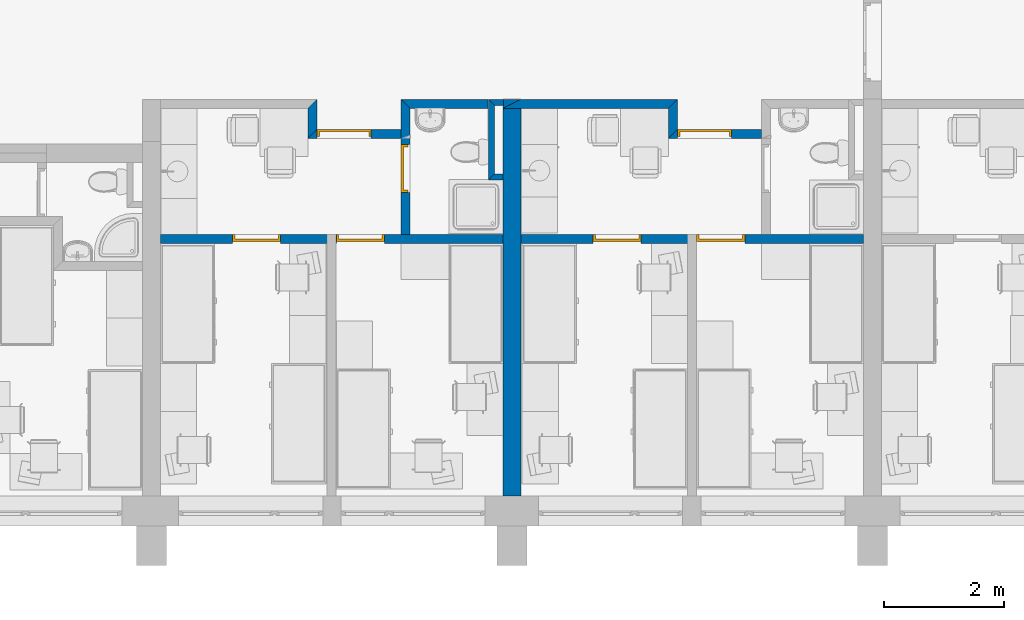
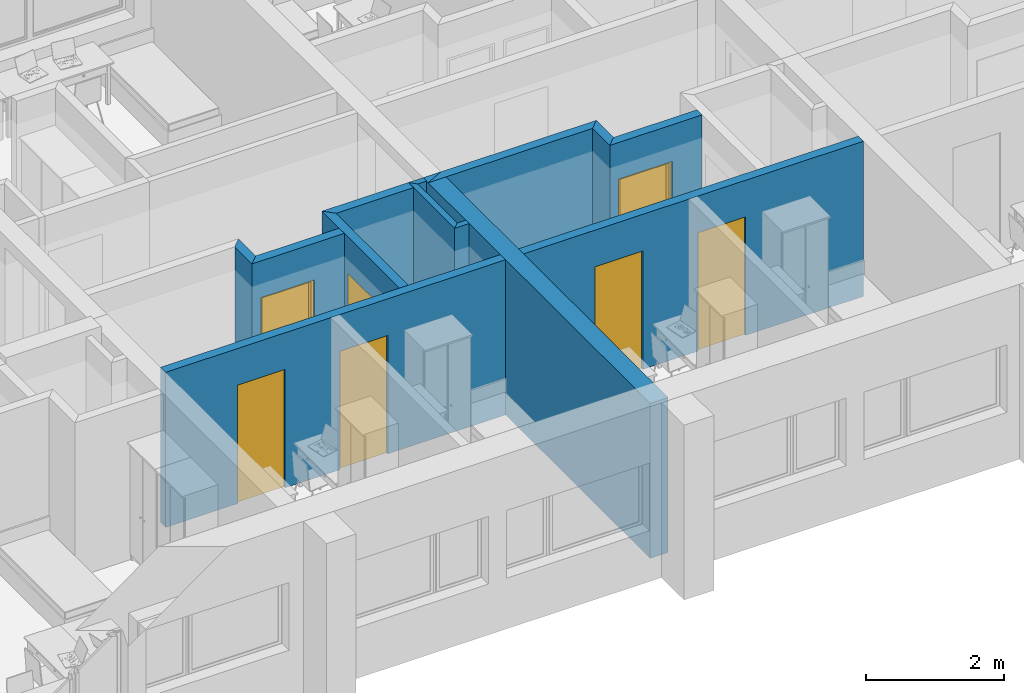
# One storey, part 3 of 172: 13 walls, 7 doors, 7 openings.
"""IFC2X3 building model written with IfcOpenShell, lengths in millimetres."""

from ifc_helpers import new_model, entity, si_unit, converted_unit, money_unit, direction, frame, origin_with_axes, place, context, subcontext, project, spatial, polyline, outline, extrude, faceted_brep, source, transform, mapped, material, material_list, layer, layer_set, layer_usage, type_object, element, fill, save


model = new_model("IFC2X3")

# Units and contexts
model_context = context("Model", 3, precision=1e-05, world=origin_with_axes(), true_north=direction((0.0, 1.0)))
body_context = subcontext(model_context, "Body", "Model", "MODEL_VIEW")
ifc_project = project(units=[si_unit("LENGTHUNIT", "METRE", prefix="MILLI"), si_unit("AREAUNIT", "SQUARE_METRE"), si_unit("VOLUMEUNIT", "CUBIC_METRE"), converted_unit("PLANEANGLEUNIT", "DEGREE", entity("IfcPlaneAngleMeasure", 0.0174532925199), si_unit("PLANEANGLEUNIT", "RADIAN"), dimensions=[0, 0, 0, 0, 0, 0, 0]), si_unit("SOLIDANGLEUNIT", "STERADIAN"), money_unit("USD"), converted_unit("TIMEUNIT", "Year", entity("IfcTimeMeasure", 31556926.0), si_unit("TIMEUNIT", "SECOND"), dimensions=[0, 0, 0, 0, 0, 0, 0]), si_unit("MASSUNIT", "GRAM"), si_unit("THERMODYNAMICTEMPERATUREUNIT", "DEGREE_CELSIUS"), si_unit("LUMINOUSINTENSITYUNIT", "LUMEN")], contexts=[model_context])

# Site, building, storey
site_placement = place(None, origin_with_axes())
site = spatial("IfcSite", under=ifc_project, at=site_placement, Name="Site", CompositionType="ELEMENT")
building_placement = place(site_placement, origin_with_axes())
building = spatial("IfcBuilding", under=site, at=building_placement, Name="Building", CompositionType="ELEMENT")
storey_placement = place(building_placement, frame((0.0, 0.0, 3200.0), z_axis=(0.0, 0.0, 1.0), x_axis=(1.0, 0.0, 0.0)))
storey = spatial("IfcBuildingStorey", under=building, at=storey_placement, Name="3KORRUS", CompositionType="ELEMENT", Elevation=3200.0)

# Wall
ifc_material_1 = material(Name="UmbKipsplaat")
ifc_layer_1 = layer(ifc_material_1, 13.0, ventilated="UNKNOWN")
ifc_layer_2 = layer(ifc_material_1, 13.0, ventilated="UNKNOWN")
ifc_material_2 = material(Name="SOOJUSTUS MINERAALVILL")
ifc_layer_3 = layer(ifc_material_2, 98.0, ventilated="UNKNOWN")
ifc_layer_4 = layer(ifc_material_1, 13.0, ventilated="UNKNOWN")
ifc_layer_5 = layer(ifc_material_1, 13.0, ventilated="UNKNOWN")
ifc_layer_set_1 = layer_set([ifc_layer_1, ifc_layer_2, ifc_layer_3, ifc_layer_4, ifc_layer_5], Name="kipssein150")
ifc_layer_usage_1 = layer_usage(ifc_layer_set_1, "AXIS2", "POSITIVE", -150.0)
wall_type_1 = type_object("IfcWallType", Name="kipssein150 150", PredefinedType="NOTDEFINED")
wall_1_placement = place(storey_placement, frame((-43984.201689, -13039.3705726, 0.0), z_axis=(0.0, 0.0, 1.0), x_axis=(1.0, 0.0, 0.0)))
element("IfcWallStandardCase", 1, at=wall_1_placement, inside=storey, type_object=wall_type_1, material=ifc_layer_usage_1, Name="SS1", ObjectType="SS1", context=body_context, shape_type="SweptSolid", body=[
    extrude(outline(polyline([(150.0, -150.0), (1445.21489498, -150.0), (1445.21489498, 0.0), (0.0, 0.0), (150.0, -150.0)])), origin_with_axes(), (0.0, 0.0, 1.0), 2750.0),
])

# Wall, openings, doors
ifc_layer_usage_2 = layer_usage(ifc_layer_set_1, "AXIS2", "POSITIVE", -150.0)
wall_2_placement = place(storey_placement, frame((-41990.2967033, -15439.2398994, 0.0), z_axis=(0.0, 0.0, 1.0), x_axis=(-1.0, 0.0, 0.0)))
wall_2 = element("IfcWallStandardCase", 2, at=wall_2_placement, inside=storey, type_object=wall_type_1, material=ifc_layer_usage_2, Name="SS1", ObjectType="SS1", context=body_context, shape_type="SweptSolid", body=[
    extrude(outline(polyline([(300.0, -150.0), (6000.0, -150.0), (6000.0, 0.0), (300.0, 0.0), (300.0, -150.0)])), origin_with_axes(), (0.0, 0.0, 1.0), 2750.0),
])
opening_1_placement = place(wall_2_placement, frame((4400.0, 0.0, 0.0), z_axis=(0.0, 0.0, 1.0), x_axis=(1.0, 0.0, 0.0)))
opening_1 = element("IfcOpeningElement", 3, at=opening_1_placement, cuts=wall_2, Name="SU3-5", context=body_context, shape_type="SweptSolid", body=[
    extrude(outline(polyline([(-400.0, 0.0), (400.0, 0.0), (400.0, 2100.0), (-400.0, 2100.0), (-400.0, 0.0)])), frame((0.0, 150.0, 0.0), z_axis=(0.0, 1.0, 0.0), x_axis=(-1.0, 0.0, 0.0)), (0.0, 0.0, -1.0), 450.0),
])
opening_2_placement = place(wall_2_placement, frame((2675.0, 0.0, 0.0), z_axis=(0.0, 0.0, 1.0), x_axis=(1.0, 0.0, 0.0)))
opening_2 = element("IfcOpeningElement", 4, at=opening_2_placement, cuts=wall_2, Name="SU3-4", context=body_context, shape_type="SweptSolid", body=[
    extrude(outline(polyline([(-400.0, 0.0), (400.0, 0.0), (400.0, 2100.0), (-400.0, 2100.0), (-400.0, 0.0)])), frame((0.0, 150.0, 0.0), z_axis=(0.0, -1.0, 0.0), x_axis=(1.0, 0.0, 0.0)), (0.0, 0.0, 1.0), 450.0),
])
ifc_material_3 = material(Name="Background")
ifc_material_list = material_list([ifc_material_3])
door_style_1 = type_object("IfcDoorStyle", Name="Door 19", ConstructionType="NOTDEFINED", OperationType="SINGLE_SWING_LEFT", ParameterTakesPrecedence=False, Sizeable=False)
shared_shape_1 = source(origin_with_axes(), body_context, "Body", "Brep", [
    faceted_brep([(360.0, -75.0, 0.0), (360.0, -150.0, 0.0), (360.0, -150.0, 2060.0), (360.0, -75.0, 2060.0), (372.0, -75.0, 0.0), (372.0, -35.0, 0.0), (400.0, -35.0, 0.0), (400.0, -150.0, 0.0), (400.0, -150.0, 2060.0), (372.0, -75.0, 2060.0), (400.0, -35.0, 2060.0), (372.0, -35.0, 2060.0)], [[[0, 1, 2, 3]], [[4, 5, 6, 7, 1, 0]], [[2, 1, 7, 8]], [[9, 3, 2, 8, 10, 11]], [[9, 4, 0, 3]], [[11, 5, 4, 9]], [[11, 10, 6, 5]], [[7, 6, 10, 8]]]),
    faceted_brep([(-372.0, -75.0, 2060.0), (-372.0, -35.0, 2060.0), (-400.0, -35.0, 2060.0), (-400.0, -150.0, 2060.0), (-360.0, -150.0, 2060.0), (-360.0, -75.0, 2060.0), (-372.0, -75.0, 0.0), (-372.0, -35.0, 0.0), (-400.0, -35.0, 0.0), (-400.0, -150.0, 0.0), (-360.0, -150.0, 0.0), (-360.0, -75.0, 0.0)], [[[0, 1, 2, 3, 4, 5]], [[0, 6, 7, 1]], [[7, 8, 2, 1]], [[3, 2, 8, 9]], [[4, 3, 9, 10]], [[5, 4, 10, 11]], [[5, 11, 6, 0]], [[6, 11, 10, 9, 8, 7]]]),
    faceted_brep([(372.0, -35.0, 2072.0), (-372.0, -35.0, 2072.0), (-372.0, -35.0, 2060.0), (-400.0, -35.0, 2060.0), (-400.0, -35.0, 2100.0), (400.0, -35.0, 2100.0), (400.0, -35.0, 2060.0), (372.0, -35.0, 2060.0), (372.0, -75.0, 2072.0), (-372.0, -75.0, 2072.0), (-372.0, -75.0, 2060.0), (-360.0, -75.0, 2060.0), (-360.0, -150.0, 2060.0), (-400.0, -150.0, 2060.0), (-400.0, -150.0, 2100.0), (400.0, -150.0, 2100.0), (400.0, -150.0, 2060.0), (372.0, -75.0, 2060.0), (360.0, -150.0, 2060.0), (360.0, -75.0, 2060.0)], [[[0, 1, 2, 3, 4, 5, 6, 7]], [[0, 8, 9, 1]], [[1, 9, 10, 2]], [[10, 11, 12, 13, 3, 2]], [[14, 4, 3, 13]], [[15, 5, 4, 14]], [[16, 6, 5, 15]], [[17, 7, 6, 16, 18, 19]], [[7, 17, 8, 0]], [[10, 9, 8, 17, 19, 11]], [[19, 18, 12, 11]], [[13, 12, 18, 16, 15, 14]]]),
    faceted_brep([(-372.0, -35.0, 0.0), (372.0, -35.0, 0.0), (372.0, -75.0, 0.0), (-372.0, -75.0, 0.0), (-372.0, -35.0, 2072.0), (372.0, -35.0, 2072.0), (372.0, -75.0, 2072.0), (-372.0, -75.0, 2072.0)], [[[0, 1, 2, 3]], [[0, 4, 5, 1]], [[1, 5, 6, 2]], [[3, 2, 6, 7]], [[4, 0, 3, 7]], [[5, 4, 7, 6]]]),
])
door_1_placement = place(opening_1_placement, frame((-400.0, 0.0, 0.0), z_axis=(0.0, 0.0, 1.0), x_axis=(1.0, 0.0, 0.0)))
door_1 = element("IfcDoor", 5, at=door_1_placement, inside=storey, type_object=door_style_1, material=ifc_material_list, Name="SU3-5", ObjectType="Toa uks", OverallHeight=2100.0, OverallWidth=800.0, context=body_context, shape_type="MappedRepresentation", body=[
    mapped(shared_shape_1, transform((400.0, 0.0, 0.0))),
])
fill(opening_1, door_1)
door_style_2 = type_object("IfcDoorStyle", Name="Door 19", ConstructionType="NOTDEFINED", OperationType="SINGLE_SWING_RIGHT", ParameterTakesPrecedence=False, Sizeable=False)
shared_shape_2 = source(origin_with_axes(), body_context, "Body", "Brep", [
    faceted_brep([(-360.0, -75.0, 0.0), (-360.0, -75.0, 2060.0), (-360.0, -150.0, 2060.0), (-360.0, -150.0, 0.0), (-372.0, -75.0, 2060.0), (-372.0, -75.0, 0.0), (-372.0, -35.0, 2060.0), (-400.0, -35.0, 2060.0), (-400.0, -150.0, 2060.0), (-400.0, -150.0, 0.0), (-400.0, -35.0, 0.0), (-372.0, -35.0, 0.0)], [[[0, 1, 2, 3]], [[4, 1, 0, 5]], [[4, 6, 7, 8, 2, 1]], [[2, 8, 9, 3]], [[5, 0, 3, 9, 10, 11]], [[6, 4, 5, 11]], [[6, 11, 10, 7]], [[9, 8, 7, 10]]]),
    faceted_brep([(372.0, -75.0, 2060.0), (360.0, -75.0, 2060.0), (360.0, -150.0, 2060.0), (400.0, -150.0, 2060.0), (400.0, -35.0, 2060.0), (372.0, -35.0, 2060.0), (372.0, -75.0, 0.0), (360.0, -75.0, 0.0), (360.0, -150.0, 0.0), (400.0, -150.0, 0.0), (400.0, -35.0, 0.0), (372.0, -35.0, 0.0)], [[[0, 1, 2, 3, 4, 5]], [[1, 0, 6, 7]], [[1, 7, 8, 2]], [[2, 8, 9, 3]], [[3, 9, 10, 4]], [[11, 5, 4, 10]], [[0, 5, 11, 6]], [[6, 11, 10, 9, 8, 7]]]),
    faceted_brep([(-372.0, -35.0, 2072.0), (-372.0, -35.0, 2060.0), (-400.0, -35.0, 2060.0), (-400.0, -35.0, 2100.0), (400.0, -35.0, 2100.0), (400.0, -35.0, 2060.0), (372.0, -35.0, 2060.0), (372.0, -35.0, 2072.0), (-372.0, -75.0, 2072.0), (-372.0, -75.0, 2060.0), (-360.0, -75.0, 2060.0), (-360.0, -150.0, 2060.0), (-400.0, -150.0, 2060.0), (-400.0, -150.0, 2100.0), (400.0, -150.0, 2100.0), (400.0, -150.0, 2060.0), (372.0, -75.0, 2060.0), (360.0, -150.0, 2060.0), (360.0, -75.0, 2060.0), (372.0, -75.0, 2072.0)], [[[0, 1, 2, 3, 4, 5, 6, 7]], [[1, 0, 8, 9]], [[9, 10, 11, 12, 2, 1]], [[12, 13, 3, 2]], [[13, 14, 4, 3]], [[14, 15, 5, 4]], [[16, 6, 5, 15, 17, 18]], [[7, 6, 16, 19]], [[0, 7, 19, 8]], [[16, 18, 10, 9, 8, 19]], [[10, 18, 17, 11]], [[15, 14, 13, 12, 11, 17]]]),
    faceted_brep([(372.0, -35.0, 0.0), (372.0, -75.0, 0.0), (-372.0, -75.0, 0.0), (-372.0, -35.0, 0.0), (372.0, -35.0, 2072.0), (372.0, -75.0, 2072.0), (-372.0, -75.0, 2072.0), (-372.0, -35.0, 2072.0)], [[[0, 1, 2, 3]], [[4, 5, 1, 0]], [[1, 5, 6, 2]], [[3, 2, 6, 7]], [[0, 3, 7, 4]], [[7, 6, 5, 4]]]),
])
door_2_placement = place(opening_2_placement, frame((-400.0, 0.0, 0.0), z_axis=(0.0, 0.0, 1.0), x_axis=(1.0, 0.0, 0.0)))
door_2 = element("IfcDoor", 6, at=door_2_placement, inside=storey, type_object=door_style_2, material=ifc_material_list, Name="SU3-4", ObjectType="Toa uks", OverallHeight=2100.0, OverallWidth=800.0, context=body_context, shape_type="MappedRepresentation", body=[
    mapped(shared_shape_2, transform((400.0, 0.0, 0.0))),
])
fill(opening_2, door_2)

# Wall, opening, door
ifc_layer_usage_3 = layer_usage(ifc_layer_set_1, "AXIS2", "POSITIVE", -150.0)
wall_3_placement = place(storey_placement, frame((-43984.201689, -15289.2398994, 0.0), z_axis=(0.0, 0.0, 1.0), x_axis=(0.0, 1.0, 0.0)))
wall_3 = element("IfcWallStandardCase", 7, at=wall_3_placement, inside=storey, type_object=wall_type_1, material=ifc_layer_usage_3, Name="SS1", ObjectType="SS1", context=body_context, shape_type="SweptSolid", body=[
    extrude(outline(polyline([(0.0, -150.0), (2099.8693268, -150.0), (2249.8693268, 0.0), (0.0, 0.0), (0.0, -150.0)])), origin_with_axes(), (0.0, 0.0, 1.0), 2750.0),
])
opening_3_placement = place(wall_3_placement, frame((1099.78749111, 0.0, 0.0), z_axis=(0.0, 0.0, 1.0), x_axis=(1.0, 0.0, 0.0)))
opening_3 = element("IfcOpeningElement", 8, at=opening_3_placement, cuts=wall_3, Name="SU3-2", context=body_context, shape_type="SweptSolid", body=[
    extrude(outline(polyline([(-400.0, -2100.0), (400.0, -2100.0), (400.0, 0.0), (-400.0, 0.0), (-400.0, -2100.0)])), frame((0.0, -150.0, 0.0), z_axis=(0.0, 1.0, 0.0), x_axis=(1.0, 0.0, 0.0)), (0.0, 0.0, 1.0), 450.0),
])
door_style_3 = type_object("IfcDoorStyle", Name="Door 19", ConstructionType="NOTDEFINED", OperationType="SINGLE_SWING_RIGHT", ParameterTakesPrecedence=False, Sizeable=False)
shared_shape_3 = source(origin_with_axes(), body_context, "Body", "Brep", [
    faceted_brep([(-360.0, -40.0, 0.0), (-360.0, -40.0, 2060.0), (-360.0, -115.0, 2060.0), (-360.0, -115.0, 0.0), (-372.0, -40.0, 2060.0), (-372.0, -40.0, 0.0), (-372.0, 0.0, 2060.0), (-400.0, 0.0, 2060.0), (-400.0, -115.0, 2060.0), (-400.0, -115.0, 0.0), (-400.0, 0.0, 0.0), (-372.0, 0.0, 0.0)], [[[0, 1, 2, 3]], [[4, 1, 0, 5]], [[4, 6, 7, 8, 2, 1]], [[2, 8, 9, 3]], [[5, 0, 3, 9, 10, 11]], [[6, 4, 5, 11]], [[6, 11, 10, 7]], [[9, 8, 7, 10]]]),
    faceted_brep([(372.0, -40.0, 2060.0), (360.0, -40.0, 2060.0), (360.0, -115.0, 2060.0), (400.0, -115.0, 2060.0), (400.0, 0.0, 2060.0), (372.0, 0.0, 2060.0), (372.0, -40.0, 0.0), (360.0, -40.0, 0.0), (360.0, -115.0, 0.0), (400.0, -115.0, 0.0), (400.0, 0.0, 0.0), (372.0, 0.0, 0.0)], [[[0, 1, 2, 3, 4, 5]], [[1, 0, 6, 7]], [[1, 7, 8, 2]], [[2, 8, 9, 3]], [[3, 9, 10, 4]], [[11, 5, 4, 10]], [[0, 5, 11, 6]], [[6, 11, 10, 9, 8, 7]]]),
    faceted_brep([(-372.0, 0.0, 2072.0), (-372.0, 0.0, 2060.0), (-400.0, 0.0, 2060.0), (-400.0, 0.0, 2100.0), (400.0, 0.0, 2100.0), (400.0, 0.0, 2060.0), (372.0, 0.0, 2060.0), (372.0, 0.0, 2072.0), (-372.0, -40.0, 2072.0), (-372.0, -40.0, 2060.0), (-360.0, -40.0, 2060.0), (-360.0, -115.0, 2060.0), (-400.0, -115.0, 2060.0), (-400.0, -115.0, 2100.0), (400.0, -115.0, 2100.0), (400.0, -115.0, 2060.0), (372.0, -40.0, 2060.0), (360.0, -115.0, 2060.0), (360.0, -40.0, 2060.0), (372.0, -40.0, 2072.0)], [[[0, 1, 2, 3, 4, 5, 6, 7]], [[1, 0, 8, 9]], [[9, 10, 11, 12, 2, 1]], [[12, 13, 3, 2]], [[13, 14, 4, 3]], [[14, 15, 5, 4]], [[16, 6, 5, 15, 17, 18]], [[7, 6, 16, 19]], [[0, 7, 19, 8]], [[16, 18, 10, 9, 8, 19]], [[10, 18, 17, 11]], [[15, 14, 13, 12, 11, 17]]]),
    faceted_brep([(372.0, 0.0, 0.0), (372.0, -40.0, 0.0), (-372.0, -40.0, 0.0), (-372.0, 0.0, 0.0), (372.0, 0.0, 2072.0), (372.0, -40.0, 2072.0), (-372.0, -40.0, 2072.0), (-372.0, 0.0, 2072.0)], [[[0, 1, 2, 3]], [[4, 5, 1, 0]], [[1, 5, 6, 2]], [[3, 2, 6, 7]], [[0, 3, 7, 4]], [[7, 6, 5, 4]]]),
])
door_3_placement = place(opening_3_placement, frame((-400.0, 0.0, 0.0), z_axis=(0.0, 0.0, 1.0), x_axis=(1.0, 0.0, 0.0)))
door_3 = element("IfcDoor", 9, at=door_3_placement, inside=storey, type_object=door_style_3, material=ifc_material_list, Name="SU3-2", ObjectType="WC-uks", OverallHeight=2100.0, OverallWidth=800.0, context=body_context, shape_type="MappedRepresentation", body=[
    mapped(shared_shape_3, transform((400.0, 0.0, 0.0))),
])
fill(opening_3, door_3)

ifc_layer_usage_4 = layer_usage(ifc_layer_set_1, "AXIS2", "POSITIVE", 0.0)
wall_4_placement = place(storey_placement, frame((-43984.201689, -13539.4524083, 0.0), z_axis=(0.0, 0.0, 1.0), x_axis=(-1.0, 0.0, 0.0)))
wall_4 = element("IfcWallStandardCase", 10, at=wall_4_placement, inside=storey, type_object=wall_type_1, material=ifc_layer_usage_4, Name="SS1", ObjectType="SS1", context=body_context, shape_type="SweptSolid", body=[
    extrude(outline(polyline([(0.0, 0.0), (1399.6606794, 0.0), (1549.6606794, 150.0), (0.0, 150.0), (0.0, 0.0)])), origin_with_axes(), (0.0, 0.0, 1.0), 2750.0),
])
opening_4_placement = place(wall_4_placement, frame((949.660679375, 0.0, 0.0), z_axis=(0.0, 0.0, 1.0), x_axis=(1.0, 0.0, 0.0)))
opening_4 = element("IfcOpeningElement", 11, at=opening_4_placement, cuts=wall_4, Name="SU2-6", context=body_context, shape_type="SweptSolid", body=[
    extrude(outline(polyline([(-450.0, -2100.0), (450.0, -2100.0), (450.0, 0.0), (-450.0, 0.0), (-450.0, -2100.0)])), frame((0.0, 150.0, 0.0), z_axis=(0.0, 1.0, 0.0), x_axis=(1.0, 0.0, 0.0)), (0.0, 0.0, -1.0), 450.0),
])
door_style_4 = type_object("IfcDoorStyle", Name="Door 19", ConstructionType="NOTDEFINED", OperationType="SINGLE_SWING_LEFT", ParameterTakesPrecedence=False, Sizeable=False)
shared_shape_4 = source(origin_with_axes(), body_context, "Body", "Brep", [
    faceted_brep([(410.0, -40.0, 0.0), (410.0, -115.0, 0.0), (410.0, -115.0, 2060.0), (410.0, -40.0, 2060.0), (422.0, -40.0, 0.0), (422.0, 0.0, 0.0), (450.0, 0.0, 0.0), (450.0, -115.0, 0.0), (450.0, -115.0, 2060.0), (422.0, -40.0, 2060.0), (450.0, 0.0, 2060.0), (422.0, 0.0, 2060.0)], [[[0, 1, 2, 3]], [[4, 5, 6, 7, 1, 0]], [[2, 1, 7, 8]], [[9, 3, 2, 8, 10, 11]], [[9, 4, 0, 3]], [[11, 5, 4, 9]], [[11, 10, 6, 5]], [[7, 6, 10, 8]]]),
    faceted_brep([(-422.0, -40.0, 2060.0), (-422.0, 0.0, 2060.0), (-450.0, 0.0, 2060.0), (-450.0, -115.0, 2060.0), (-410.0, -115.0, 2060.0), (-410.0, -40.0, 2060.0), (-422.0, -40.0, 0.0), (-422.0, 0.0, 0.0), (-450.0, 0.0, 0.0), (-450.0, -115.0, 0.0), (-410.0, -115.0, 0.0), (-410.0, -40.0, 0.0)], [[[0, 1, 2, 3, 4, 5]], [[0, 6, 7, 1]], [[7, 8, 2, 1]], [[3, 2, 8, 9]], [[4, 3, 9, 10]], [[5, 4, 10, 11]], [[5, 11, 6, 0]], [[6, 11, 10, 9, 8, 7]]]),
    faceted_brep([(422.0, 0.0, 2072.0), (-422.0, 0.0, 2072.0), (-422.0, 0.0, 2060.0), (-450.0, 0.0, 2060.0), (-450.0, 0.0, 2100.0), (450.0, 0.0, 2100.0), (450.0, 0.0, 2060.0), (422.0, 0.0, 2060.0), (422.0, -40.0, 2072.0), (-422.0, -40.0, 2072.0), (-422.0, -40.0, 2060.0), (-410.0, -40.0, 2060.0), (-410.0, -115.0, 2060.0), (-450.0, -115.0, 2060.0), (-450.0, -115.0, 2100.0), (450.0, -115.0, 2100.0), (450.0, -115.0, 2060.0), (422.0, -40.0, 2060.0), (410.0, -115.0, 2060.0), (410.0, -40.0, 2060.0)], [[[0, 1, 2, 3, 4, 5, 6, 7]], [[0, 8, 9, 1]], [[1, 9, 10, 2]], [[10, 11, 12, 13, 3, 2]], [[14, 4, 3, 13]], [[15, 5, 4, 14]], [[16, 6, 5, 15]], [[17, 7, 6, 16, 18, 19]], [[7, 17, 8, 0]], [[10, 9, 8, 17, 19, 11]], [[19, 18, 12, 11]], [[13, 12, 18, 16, 15, 14]]]),
    faceted_brep([(-422.0, 0.0, 0.0), (422.0, 0.0, 0.0), (422.0, -40.0, 0.0), (-422.0, -40.0, 0.0), (-422.0, 0.0, 2072.0), (422.0, 0.0, 2072.0), (422.0, -40.0, 2072.0), (-422.0, -40.0, 2072.0)], [[[0, 1, 2, 3]], [[0, 4, 5, 1]], [[1, 5, 6, 2]], [[3, 2, 6, 7]], [[4, 0, 3, 7]], [[5, 4, 7, 6]]]),
])
door_4_placement = place(opening_4_placement, frame((450.0, 0.0, 0.0), z_axis=(0.0, 0.0, 1.0), x_axis=(-1.0, 0.0, 0.0)))
door_4 = element("IfcDoor", 12, at=door_4_placement, inside=storey, type_object=door_style_4, material=ifc_material_list, Name="SU2-6", ObjectType="Korteri välisuks", OverallHeight=2100.0, OverallWidth=900.0, context=body_context, shape_type="MappedRepresentation", body=[
    mapped(shared_shape_4, transform((450.0, 0.0, 0.0))),
])
fill(opening_4, door_4)

# Walls
ifc_layer_usage_5 = layer_usage(ifc_layer_set_1, "AXIS2", "POSITIVE", 0.0)
wall_5_placement = place(storey_placement, frame((-45533.8623684, -13039.2398994, 0.0), z_axis=(0.0, 0.0, 1.0), x_axis=(0.0, -1.0, 0.0)))
element("IfcWallStandardCase", 13, at=wall_5_placement, inside=storey, type_object=wall_type_1, material=ifc_layer_usage_5, Name="SS1", ObjectType="SS1", context=body_context, shape_type="SweptSolid", body=[
    extrude(outline(polyline([(150.0, 0.0), (650.2125089, 0.0), (500.2125089, 150.0), (0.0, 150.0), (150.0, 0.0)])), origin_with_axes(), (0.0, 0.0, 1.0), 2750.0),
])
ifc_layer_usage_6 = layer_usage(ifc_layer_set_1, "AXIS2", "POSITIVE", 0.0)
wall_6_placement = place(storey_placement, frame((-39533.8623684, -13039.2398994, 0.0), z_axis=(0.0, 0.0, 1.0), x_axis=(0.0, -1.0, 0.0)))
element("IfcWallStandardCase", 14, at=wall_6_placement, inside=storey, type_object=wall_type_1, material=ifc_layer_usage_6, Name="SS1", ObjectType="SS1", context=body_context, shape_type="SweptSolid", body=[
    extrude(outline(polyline([(150.0, 0.0), (650.2125089, 0.0), (500.2125089, 150.0), (0.0, 150.0), (150.0, 0.0)])), origin_with_axes(), (0.0, 0.0, 1.0), 2750.0),
])

# Wall, opening, door
ifc_layer_usage_7 = layer_usage(ifc_layer_set_1, "AXIS2", "POSITIVE", 0.0)
wall_7_placement = place(storey_placement, frame((-37984.201689, -13539.4524083, 0.0), z_axis=(0.0, 0.0, 1.0), x_axis=(-1.0, 0.0, 0.0)))
wall_7 = element("IfcWallStandardCase", 15, at=wall_7_placement, inside=storey, type_object=wall_type_1, material=ifc_layer_usage_7, Name="SS1", ObjectType="SS1", context=body_context, shape_type="SweptSolid", body=[
    extrude(outline(polyline([(0.0, 0.0), (1399.6606794, 0.0), (1549.6606794, 150.0), (0.0, 150.0), (0.0, 0.0)])), origin_with_axes(), (0.0, 0.0, 1.0), 2750.0),
])
opening_5_placement = place(wall_7_placement, frame((949.660679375, 0.0, 0.0), z_axis=(0.0, 0.0, 1.0), x_axis=(1.0, 0.0, 0.0)))
opening_5 = element("IfcOpeningElement", 16, at=opening_5_placement, cuts=wall_7, Name="SU2-6", context=body_context, shape_type="SweptSolid", body=[
    extrude(outline(polyline([(-450.0, -2100.0), (450.0, -2100.0), (450.0, 0.0), (-450.0, 0.0), (-450.0, -2100.0)])), frame((0.0, 150.0, 0.0), z_axis=(0.0, 1.0, 0.0), x_axis=(1.0, 0.0, 0.0)), (0.0, 0.0, -1.0), 450.0),
])
door_5_placement = place(opening_5_placement, frame((450.0, 0.0, 0.0), z_axis=(0.0, 0.0, 1.0), x_axis=(-1.0, 0.0, 0.0)))
door_5 = element("IfcDoor", 17, at=door_5_placement, inside=storey, type_object=door_style_4, material=ifc_material_list, Name="SU2-6", ObjectType="Korteri välisuks", OverallHeight=2100.0, OverallWidth=900.0, context=body_context, shape_type="MappedRepresentation", body=[
    mapped(shared_shape_4, transform((450.0, 0.0, 0.0))),
])
fill(opening_5, door_5)

# Wall
ifc_layer_usage_8 = layer_usage(ifc_layer_set_1, "AXIS2", "POSITIVE", 0.0)
wall_8_placement = place(storey_placement, frame((-39533.8623684, -13039.2398994, 0.0), z_axis=(0.0, 0.0, 1.0), x_axis=(-1.0, 0.0, 0.0)))
element("IfcWallStandardCase", 18, at=wall_8_placement, inside=storey, type_object=wall_type_1, material=ifc_layer_usage_8, Name="SS1", ObjectType="SS1", context=body_context, shape_type="SweptSolid", body=[
    extrude(outline(polyline([(-150.0, 0.0), (2456.4343349, 0.0), (2756.4343349, 150.0), (0.0, 150.0), (-150.0, 0.0)])), origin_with_axes(), (0.0, 0.0, 1.0), 2750.0),
])

# Wall, openings, doors
ifc_layer_usage_9 = layer_usage(ifc_layer_set_1, "AXIS2", "POSITIVE", -150.0)
wall_9_placement = place(storey_placement, frame((-35990.2967033, -15439.2398994, 0.0), z_axis=(0.0, 0.0, 1.0), x_axis=(-1.0, 0.0, 0.0)))
wall_9 = element("IfcWallStandardCase", 19, at=wall_9_placement, inside=storey, type_object=wall_type_1, material=ifc_layer_usage_9, Name="SS1", ObjectType="SS1", context=body_context, shape_type="SweptSolid", body=[
    extrude(outline(polyline([(300.0, -150.0), (6000.0, -150.0), (6000.0, 0.0), (300.0, 0.0), (300.0, -150.0)])), origin_with_axes(), (0.0, 0.0, 1.0), 2750.0),
])
opening_6_placement = place(wall_9_placement, frame((4400.0, 0.0, 0.0), z_axis=(0.0, 0.0, 1.0), x_axis=(1.0, 0.0, 0.0)))
opening_6 = element("IfcOpeningElement", 20, at=opening_6_placement, cuts=wall_9, Name="SU3-5", context=body_context, shape_type="SweptSolid", body=[
    extrude(outline(polyline([(-400.0, 0.0), (400.0, 0.0), (400.0, 2100.0), (-400.0, 2100.0), (-400.0, 0.0)])), frame((0.0, 150.0, 0.0), z_axis=(0.0, 1.0, 0.0), x_axis=(-1.0, 0.0, 0.0)), (0.0, 0.0, -1.0), 450.0),
])
opening_7_placement = place(wall_9_placement, frame((2675.0, 0.0, 0.0), z_axis=(0.0, 0.0, 1.0), x_axis=(1.0, 0.0, 0.0)))
opening_7 = element("IfcOpeningElement", 21, at=opening_7_placement, cuts=wall_9, Name="SU3-4", context=body_context, shape_type="SweptSolid", body=[
    extrude(outline(polyline([(-400.0, 0.0), (400.0, 0.0), (400.0, 2100.0), (-400.0, 2100.0), (-400.0, 0.0)])), frame((0.0, 150.0, 0.0), z_axis=(0.0, -1.0, 0.0), x_axis=(1.0, 0.0, 0.0)), (0.0, 0.0, 1.0), 450.0),
])
door_6_placement = place(opening_6_placement, frame((-400.0, 0.0, 0.0), z_axis=(0.0, 0.0, 1.0), x_axis=(1.0, 0.0, 0.0)))
door_6 = element("IfcDoor", 22, at=door_6_placement, inside=storey, type_object=door_style_1, material=ifc_material_list, Name="SU3-5", ObjectType="Toa uks", OverallHeight=2100.0, OverallWidth=800.0, context=body_context, shape_type="MappedRepresentation", body=[
    mapped(shared_shape_1, transform((400.0, 0.0, 0.0))),
])
fill(opening_6, door_6)
door_7_placement = place(opening_7_placement, frame((-400.0, 0.0, 0.0), z_axis=(0.0, 0.0, 1.0), x_axis=(1.0, 0.0, 0.0)))
door_7 = element("IfcDoor", 23, at=door_7_placement, inside=storey, type_object=door_style_2, material=ifc_material_list, Name="SU3-4", ObjectType="Toa uks", OverallHeight=2100.0, OverallWidth=800.0, context=body_context, shape_type="MappedRepresentation", body=[
    mapped(shared_shape_2, transform((400.0, 0.0, 0.0))),
])
fill(opening_7, door_7)

# Walls
ifc_material_4 = material(Name="Olemasolevad seinad tellis, uus viimistlus")
ifc_layer_6 = layer(ifc_material_4, 300.0, ventilated="UNKNOWN")
ifc_layer_set_2 = layer_set([ifc_layer_6], Name="Olemasolevad seinad tellis, uus viimistlus  300")
ifc_layer_usage_10 = layer_usage(ifc_layer_set_2, "AXIS2", "POSITIVE", 0.0)
wall_type_2 = type_object("IfcWallType", Name="Olemasolevad seinad tellis, uus viimistlus  300", PredefinedType="NOTDEFINED")
wall_10_placement = place(storey_placement, frame((-41990.2967033, -19639.2398994, 0.0), z_axis=(0.0, 0.0, 1.0), x_axis=(0.0, 1.0, 0.0)))
element("IfcWallStandardCase", 24, at=wall_10_placement, inside=storey, type_object=wall_type_2, material=ifc_layer_usage_10, Name="KS1", ObjectType="KS1", context=body_context, shape_type="SweptSolid", body=[
    extrude(outline(polyline([(0.0, 0.0), (6599.86932682, 0.0), (6599.86932682, 300.0), (0.0, 300.0), (0.0, 0.0)])), origin_with_axes(), (0.0, 0.0, 1.0), 2750.0),
])
ifc_material_5 = material(Name="krohv")
ifc_layer_7 = layer(ifc_material_5, 2.0, ventilated="UNKNOWN")
ifc_layer_8 = layer(ifc_material_5, 10.0, ventilated="UNKNOWN")
ifc_material_6 = material(Name="Kergplokk")
ifc_layer_9 = layer(ifc_material_6, 76.0, ventilated="UNKNOWN")
ifc_layer_10 = layer(ifc_material_5, 10.0, ventilated="UNKNOWN")
ifc_layer_11 = layer(ifc_material_5, 2.0, ventilated="UNKNOWN")
ifc_layer_set_3 = layer_set([ifc_layer_7, ifc_layer_8, ifc_layer_9, ifc_layer_10, ifc_layer_11], Name="Kergplokk Bauroc 100")
ifc_layer_usage_11 = layer_usage(ifc_layer_set_3, "AXIS2", "POSITIVE", -100.0)
wall_type_3 = type_object("IfcWallType", Name="Kergplokk Bauroc 100 100", PredefinedType="NOTDEFINED")
wall_11_placement = place(storey_placement, frame((-41990.2967033, -14380.4716262, 0.0), z_axis=(0.0, 0.0, 1.0), x_axis=(-1.0, 0.0, 0.0)))
element("IfcWallStandardCase", 25, at=wall_11_placement, inside=storey, type_object=wall_type_3, material=ifc_layer_usage_11, Name="SS2", ObjectType="SS2", context=body_context, shape_type="SweptSolid", body=[
    extrude(outline(polyline([(300.0, -100.0), (443.7116047, -100.0), (543.7116047, 0.0), (300.0, 0.0), (300.0, -100.0)])), origin_with_axes(), (0.0, 0.0, 1.0), 2750.0),
])
ifc_layer_usage_12 = layer_usage(ifc_layer_set_3, "AXIS2", "POSITIVE", -100.0)
wall_12_placement = place(storey_placement, frame((-42434.008308, -13139.2398994, 0.0), z_axis=(0.0, 0.0, 1.0), x_axis=(0.0, -1.0, 0.0)))
element("IfcWallStandardCase", 26, at=wall_12_placement, inside=storey, type_object=wall_type_3, material=ifc_layer_usage_12, Name="SS2", ObjectType="SS2", context=body_context, shape_type="SweptSolid", body=[
    extrude(outline(polyline([(-100.0, -100.0), (1241.2317268, -100.0), (1141.2317268, 0.0), (0.0, 0.0), (-100.0, -100.0)])), origin_with_axes(), (0.0, 0.0, 1.0), 2750.0),
])
ifc_layer_usage_13 = layer_usage(ifc_layer_set_3, "AXIS2", "POSITIVE", -100.0)
wall_13_placement = place(storey_placement, frame((-42284.008308, -13139.2398994, 0.0), z_axis=(0.0, 0.0, 1.0), x_axis=(-1.0, 0.0, 0.0)))
element("IfcWallStandardCase", 27, at=wall_13_placement, inside=storey, type_object=wall_type_3, material=ifc_layer_usage_13, Name="SS2", ObjectType="SS2", context=body_context, shape_type="SweptSolid", body=[
    extrude(outline(polyline([(0.0, -100.0), (250.0, -100.0), (150.0, 0.0), (0.0, 0.0), (0.0, -100.0)])), origin_with_axes(), (0.0, 0.0, 1.0), 2750.0),
])

save(model, "model.ifc")
